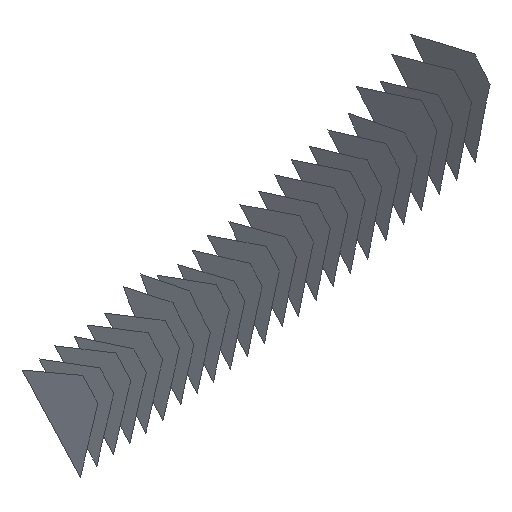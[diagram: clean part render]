
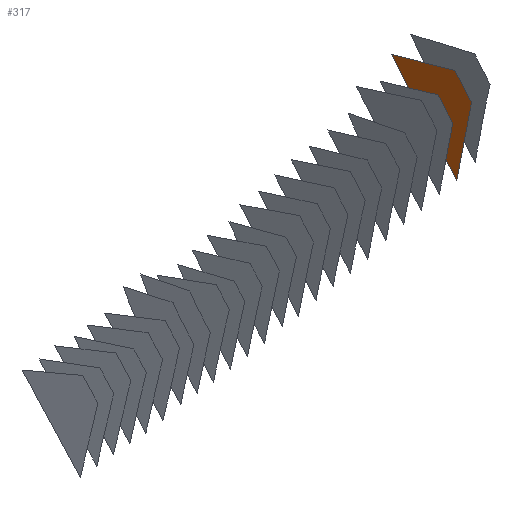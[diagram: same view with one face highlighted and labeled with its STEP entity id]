
A CAD part, front view. The second image highlights one B-rep face of the part: STEP entity #317.
In plain terms, the highlighted free-form (B-spline) face has degree [1, 1] with [2, 2] control points.
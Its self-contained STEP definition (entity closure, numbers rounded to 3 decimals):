
#317 = ADVANCED_FACE('',(#318),#331,.T.);
#318 = FACE_BOUND('',#319,.T.);
#319 = EDGE_LOOP('',(#320,#341,#355,#369,#383,#397,#411,#425));
#320 = ORIENTED_EDGE('',*,*,#321,.T.);
#321 = EDGE_CURVE('',#322,#324,#326,.T.);
#322 = VERTEX_POINT('',#323);
#323 = CARTESIAN_POINT('',(1236.117,-1156.263,
    1045.167));
#324 = VERTEX_POINT('',#325);
#325 = CARTESIAN_POINT('',(1237.434,-1155.644,
    1042.626));
#326 = SURFACE_CURVE('',#327,(#330),.PCURVE_S1.);
#327 = B_SPLINE_CURVE_WITH_KNOTS('',1,(#328,#329),.UNSPECIFIED.,.F.,.F.,
  (2,2),(0.,2.928),.PIECEWISE_BEZIER_KNOTS.);
#328 = CARTESIAN_POINT('',(1236.117,-1156.263,
    1045.167));
#329 = CARTESIAN_POINT('',(1237.434,-1155.644,
    1042.626));
#330 = PCURVE('',#331,#336);
#331 = B_SPLINE_SURFACE_WITH_KNOTS('',1,1,(
    (#332,#333)
    ,(#334,#335
    )),.UNSPECIFIED.,.F.,.F.,.F.,(2,2),(2,2),(-4.913,
    2.789),(-4.079,5.536),
  .PIECEWISE_BEZIER_KNOTS.);
#332 = CARTESIAN_POINT('',(1231.353,-1154.65,
    1047.353));
#333 = CARTESIAN_POINT('',(1229.581,-1149.312,
    1039.554));
#334 = CARTESIAN_POINT('',(1238.044,-1156.915,
    1044.283));
#335 = CARTESIAN_POINT('',(1236.271,-1151.578,
    1036.483));
#336 = DEFINITIONAL_REPRESENTATION('',(#337),#340);
#337 = B_SPLINE_CURVE_WITH_KNOTS('',1,(#338,#339),.UNSPECIFIED.,.F.,.F.,
  (2,2),(0.,2.928),.PIECEWISE_BEZIER_KNOTS.);
#338 = CARTESIAN_POINT('',(0.571,-4.079));
#339 = CARTESIAN_POINT('',(2.546,-1.918));
#340 = ( GEOMETRIC_REPRESENTATION_CONTEXT(2) 
PARAMETRIC_REPRESENTATION_CONTEXT() REPRESENTATION_CONTEXT('2D SPACE',''
  ) );
#341 = ORIENTED_EDGE('',*,*,#342,.T.);
#342 = EDGE_CURVE('',#324,#343,#345,.T.);
#343 = VERTEX_POINT('',#344);
#344 = CARTESIAN_POINT('',(1237.195,-1154.819,
    1041.383));
#345 = SURFACE_CURVE('',#346,(#349),.PCURVE_S1.);
#346 = B_SPLINE_CURVE_WITH_KNOTS('',1,(#347,#348),.UNSPECIFIED.,.F.,.F.,
  (2,2),(0.,1.511),.PIECEWISE_BEZIER_KNOTS.);
#347 = CARTESIAN_POINT('',(1237.434,-1155.644,
    1042.626));
#348 = CARTESIAN_POINT('',(1237.195,-1154.819,
    1041.383));
#349 = PCURVE('',#331,#350);
#350 = DEFINITIONAL_REPRESENTATION('',(#351),#354);
#351 = B_SPLINE_CURVE_WITH_KNOTS('',1,(#352,#353),.UNSPECIFIED.,.F.,.F.,
  (2,2),(0.,1.511),.PIECEWISE_BEZIER_KNOTS.);
#352 = CARTESIAN_POINT('',(2.546,-1.918));
#353 = CARTESIAN_POINT('',(2.591,-0.408));
#354 = ( GEOMETRIC_REPRESENTATION_CONTEXT(2) 
PARAMETRIC_REPRESENTATION_CONTEXT() REPRESENTATION_CONTEXT('2D SPACE',''
  ) );
#355 = ORIENTED_EDGE('',*,*,#356,.T.);
#356 = EDGE_CURVE('',#343,#357,#359,.T.);
#357 = VERTEX_POINT('',#358);
#358 = CARTESIAN_POINT('',(1236.881,-1153.725,
    1039.733));
#359 = SURFACE_CURVE('',#360,(#363),.PCURVE_S1.);
#360 = B_SPLINE_CURVE_WITH_KNOTS('',1,(#361,#362),.UNSPECIFIED.,.F.,.F.,
  (2,2),(0.,2.005),.PIECEWISE_BEZIER_KNOTS.);
#361 = CARTESIAN_POINT('',(1237.195,-1154.819,
    1041.383));
#362 = CARTESIAN_POINT('',(1236.881,-1153.725,
    1039.733));
#363 = PCURVE('',#331,#364);
#364 = DEFINITIONAL_REPRESENTATION('',(#365),#368);
#365 = B_SPLINE_CURVE_WITH_KNOTS('',1,(#366,#367),.UNSPECIFIED.,.F.,.F.,
  (2,2),(0.,2.005),.PIECEWISE_BEZIER_KNOTS.);
#366 = CARTESIAN_POINT('',(2.591,-0.408));
#367 = CARTESIAN_POINT('',(2.655,1.596));
#368 = ( GEOMETRIC_REPRESENTATION_CONTEXT(2) 
PARAMETRIC_REPRESENTATION_CONTEXT() REPRESENTATION_CONTEXT('2D SPACE',''
  ) );
#369 = ORIENTED_EDGE('',*,*,#370,.T.);
#370 = EDGE_CURVE('',#357,#371,#373,.T.);
#371 = VERTEX_POINT('',#372);
#372 = CARTESIAN_POINT('',(1236.568,-1152.632,
    1038.082));
#373 = SURFACE_CURVE('',#374,(#377),.PCURVE_S1.);
#374 = B_SPLINE_CURVE_WITH_KNOTS('',1,(#375,#376),.UNSPECIFIED.,.F.,.F.,
  (2,2),(0.,2.005),.PIECEWISE_BEZIER_KNOTS.);
#375 = CARTESIAN_POINT('',(1236.881,-1153.725,
    1039.733));
#376 = CARTESIAN_POINT('',(1236.568,-1152.632,
    1038.082));
#377 = PCURVE('',#331,#378);
#378 = DEFINITIONAL_REPRESENTATION('',(#379),#382);
#379 = B_SPLINE_CURVE_WITH_KNOTS('',1,(#380,#381),.UNSPECIFIED.,.F.,.F.,
  (2,2),(0.,2.005),.PIECEWISE_BEZIER_KNOTS.);
#380 = CARTESIAN_POINT('',(2.655,1.596));
#381 = CARTESIAN_POINT('',(2.72,3.6));
#382 = ( GEOMETRIC_REPRESENTATION_CONTEXT(2) 
PARAMETRIC_REPRESENTATION_CONTEXT() REPRESENTATION_CONTEXT('2D SPACE',''
  ) );
#383 = ORIENTED_EDGE('',*,*,#384,.T.);
#384 = EDGE_CURVE('',#371,#385,#387,.T.);
#385 = VERTEX_POINT('',#386);
#386 = CARTESIAN_POINT('',(1236.271,-1151.578,
    1036.483));
#387 = SURFACE_CURVE('',#388,(#391),.PCURVE_S1.);
#388 = B_SPLINE_CURVE_WITH_KNOTS('',1,(#389,#390),.UNSPECIFIED.,.F.,.F.,
  (2,2),(0.,1.938),.PIECEWISE_BEZIER_KNOTS.);
#389 = CARTESIAN_POINT('',(1236.568,-1152.632,
    1038.082));
#390 = CARTESIAN_POINT('',(1236.271,-1151.578,
    1036.483));
#391 = PCURVE('',#331,#392);
#392 = DEFINITIONAL_REPRESENTATION('',(#393),#396);
#393 = B_SPLINE_CURVE_WITH_KNOTS('',1,(#394,#395),.UNSPECIFIED.,.F.,.F.,
  (2,2),(0.,1.938),.PIECEWISE_BEZIER_KNOTS.);
#394 = CARTESIAN_POINT('',(2.72,3.6));
#395 = CARTESIAN_POINT('',(2.789,5.536));
#396 = ( GEOMETRIC_REPRESENTATION_CONTEXT(2) 
PARAMETRIC_REPRESENTATION_CONTEXT() REPRESENTATION_CONTEXT('2D SPACE',''
  ) );
#397 = ORIENTED_EDGE('',*,*,#398,.T.);
#398 = EDGE_CURVE('',#385,#399,#401,.T.);
#399 = VERTEX_POINT('',#400);
#400 = CARTESIAN_POINT('',(1232.309,-1153.441,
    1044.128));
#401 = SURFACE_CURVE('',#402,(#405),.PCURVE_S1.);
#402 = B_SPLINE_CURVE_WITH_KNOTS('',1,(#403,#404),.UNSPECIFIED.,.F.,.F.,
  (2,2),(0.,8.81),.PIECEWISE_BEZIER_KNOTS.);
#403 = CARTESIAN_POINT('',(1236.271,-1151.578,
    1036.483));
#404 = CARTESIAN_POINT('',(1232.309,-1153.441,
    1044.128));
#405 = PCURVE('',#331,#406);
#406 = DEFINITIONAL_REPRESENTATION('',(#407),#410);
#407 = B_SPLINE_CURVE_WITH_KNOTS('',1,(#408,#409),.UNSPECIFIED.,.F.,.F.,
  (2,2),(0.,8.81),.PIECEWISE_BEZIER_KNOTS.);
#408 = CARTESIAN_POINT('',(2.789,5.536));
#409 = CARTESIAN_POINT('',(-3.153,-0.968));
#410 = ( GEOMETRIC_REPRESENTATION_CONTEXT(2) 
PARAMETRIC_REPRESENTATION_CONTEXT() REPRESENTATION_CONTEXT('2D SPACE',''
  ) );
#411 = ORIENTED_EDGE('',*,*,#412,.T.);
#412 = EDGE_CURVE('',#399,#413,#415,.T.);
#413 = VERTEX_POINT('',#414);
#414 = CARTESIAN_POINT('',(1231.144,-1154.019,
    1046.431));
#415 = SURFACE_CURVE('',#416,(#419),.PCURVE_S1.);
#416 = B_SPLINE_CURVE_WITH_KNOTS('',1,(#417,#418),.UNSPECIFIED.,.F.,.F.,
  (2,2),(0.,2.645),.PIECEWISE_BEZIER_KNOTS.);
#417 = CARTESIAN_POINT('',(1232.309,-1153.441,
    1044.128));
#418 = CARTESIAN_POINT('',(1231.144,-1154.019,
    1046.431));
#419 = PCURVE('',#331,#420);
#420 = DEFINITIONAL_REPRESENTATION('',(#421),#424);
#421 = B_SPLINE_CURVE_WITH_KNOTS('',1,(#422,#423),.UNSPECIFIED.,.F.,.F.,
  (2,2),(0.,2.645),.PIECEWISE_BEZIER_KNOTS.);
#422 = CARTESIAN_POINT('',(-3.153,-0.968));
#423 = CARTESIAN_POINT('',(-4.913,-2.943));
#424 = ( GEOMETRIC_REPRESENTATION_CONTEXT(2) 
PARAMETRIC_REPRESENTATION_CONTEXT() REPRESENTATION_CONTEXT('2D SPACE',''
  ) );
#425 = ORIENTED_EDGE('',*,*,#426,.T.);
#426 = EDGE_CURVE('',#413,#322,#427,.T.);
#427 = SURFACE_CURVE('',#428,(#431),.PCURVE_S1.);
#428 = B_SPLINE_CURVE_WITH_KNOTS('',1,(#429,#430),.UNSPECIFIED.,.F.,.F.,
  (2,2),(0.,5.601),.PIECEWISE_BEZIER_KNOTS.);
#429 = CARTESIAN_POINT('',(1231.144,-1154.019,
    1046.431));
#430 = CARTESIAN_POINT('',(1236.117,-1156.263,
    1045.167));
#431 = PCURVE('',#331,#432);
#432 = DEFINITIONAL_REPRESENTATION('',(#433),#436);
#433 = B_SPLINE_CURVE_WITH_KNOTS('',1,(#434,#435),.UNSPECIFIED.,.F.,.F.,
  (2,2),(0.,5.601),.PIECEWISE_BEZIER_KNOTS.);
#434 = CARTESIAN_POINT('',(-4.913,-2.943));
#435 = CARTESIAN_POINT('',(0.571,-4.079));
#436 = ( GEOMETRIC_REPRESENTATION_CONTEXT(2) 
PARAMETRIC_REPRESENTATION_CONTEXT() REPRESENTATION_CONTEXT('2D SPACE',''
  ) );
